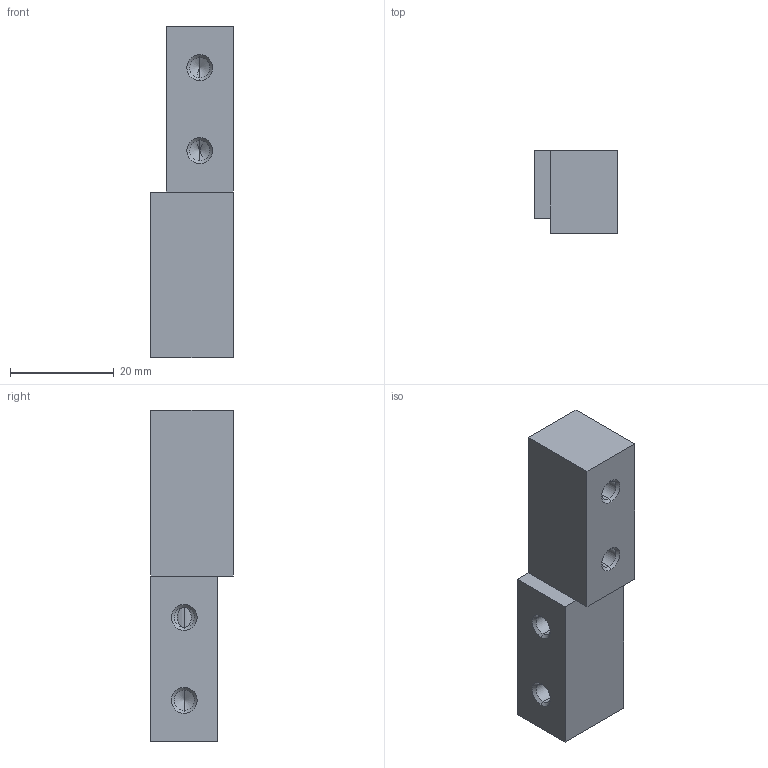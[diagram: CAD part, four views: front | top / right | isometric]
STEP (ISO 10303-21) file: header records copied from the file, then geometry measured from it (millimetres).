
FILE_DESCRIPTION((''),'2;1');
FILE_NAME('6128.04.stp','2015-07-23T09:47:55',(''),(''),'Mechanical Desktop 2006','Mechanical Desktop 2006',', , ');
FILE_SCHEMA(('CONFIG_CONTROL_DESIGN'));
Length unit declared in the file: millimetre
Products named in the file (1): 6128_04-05
Bounding box: 16 x 16 x 64 mm (x, y, z)
Volume: 12939.8 mm3; surface area: 5319.1 mm2
Topology: 2 solids, 2 shells, 62 faces, 130 edges, 75 vertices
Faces by surface type: cone 24, cylinder 20, plane 18
Entity records: 1744 total; most frequent: CARTESIAN_POINT 313, DIRECTION 304, ORIENTED_EDGE 248, EDGE_CURVE 124, AXIS2_PLACEMENT_3D 119, VERTEX_POINT 75, EDGE_LOOP 73, VECTOR 66
